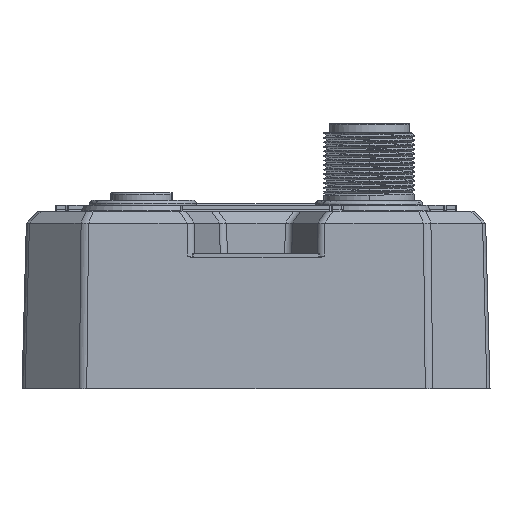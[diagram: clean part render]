
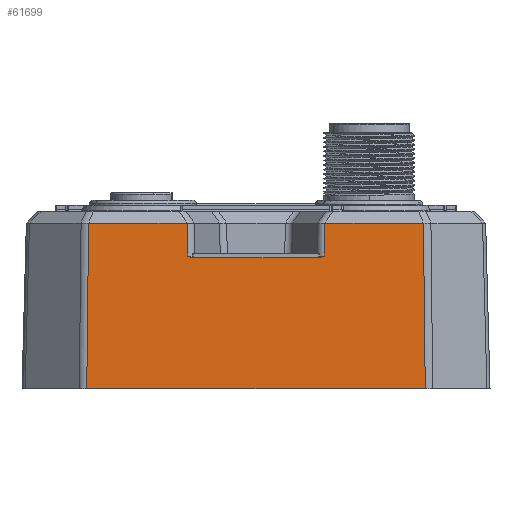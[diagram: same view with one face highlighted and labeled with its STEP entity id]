
A CAD part, front view. The second image highlights one B-rep face of the part: STEP entity #61699.
In plain terms, the highlighted planar face has unit normal (0, -1, 0.026).
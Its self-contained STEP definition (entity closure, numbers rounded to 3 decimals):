
#6977=CARTESIAN_POINT('',(22.179,-111.925,21.96));
#7010=CARTESIAN_POINT('',(-22.42,-112.5,0.));
#7016=DIRECTION('',(1.,0.,0.));
#7017=VECTOR('',#7016,44.841);
#7018=CARTESIAN_POINT('',(-22.42,-112.5,0.));
#7019=LINE('',#7018,#7017);
#7024=CARTESIAN_POINT('',(22.42,-112.5,0.));
#8016=CARTESIAN_POINT('',(-22.179,-111.925,
21.96));
#8030=DIRECTION('',(1.,0.,0.));
#8031=VECTOR('',#8030,16.53);
#8032=CARTESIAN_POINT('',(-8.27,-112.044,
17.4));
#8033=LINE('',#8032,#8031);
#8034=DIRECTION('',(-0.018,-0.026,-1.));
#8035=VECTOR('',#8034,4.367);
#8036=CARTESIAN_POINT('',(9.118,-111.925,21.96));
#8037=LINE('',#8036,#8035);
#8038=DIRECTION('',(-1.,0.,0.));
#8039=VECTOR('',#8038,13.061);
#8040=CARTESIAN_POINT('',(22.179,-111.925,21.96));
#8041=LINE('',#8040,#8039);
#8042=DIRECTION('',(-0.011,0.026,1.));
#8043=VECTOR('',#8042,21.968);
#8044=CARTESIAN_POINT('',(22.42,-112.5,0.));
#8045=LINE('',#8044,#8043);
#8046=DIRECTION('',(-0.011,-0.026,-1.));
#8047=VECTOR('',#8046,21.968);
#8048=CARTESIAN_POINT('',(-22.179,-111.925,
21.96));
#8049=LINE('',#8048,#8047);
#8050=DIRECTION('',(-1.,0.,0.));
#8051=VECTOR('',#8050,13.061);
#8052=CARTESIAN_POINT('',(-9.118,-111.925,
21.96));
#8053=LINE('',#8052,#8051);
#8054=DIRECTION('',(-0.018,0.026,1.));
#8055=VECTOR('',#8054,4.367);
#8056=CARTESIAN_POINT('',(-9.041,-112.039,
17.595));
#8057=LINE('',#8056,#8055);
#8071=CARTESIAN_POINT('',(-8.27,-112.044,
17.4));
#8072=CARTESIAN_POINT('',(-8.309,-112.044,
17.4));
#8073=CARTESIAN_POINT('',(-8.347,-112.044,
17.4));
#8074=CARTESIAN_POINT('',(-8.386,-112.044,
17.4));
#8096=CARTESIAN_POINT('',(-8.386,-112.044,
17.4));
#8097=CARTESIAN_POINT('',(-8.413,-112.044,
17.4));
#8098=CARTESIAN_POINT('',(-8.472,-112.044,
17.403));
#8099=CARTESIAN_POINT('',(-8.569,-112.044,
17.42));
#8100=CARTESIAN_POINT('',(-8.674,-112.043,
17.447));
#8101=CARTESIAN_POINT('',(-8.788,-112.042,
17.487));
#8102=CARTESIAN_POINT('',(-8.909,-112.041,
17.536));
#8103=CARTESIAN_POINT('',(-8.996,-112.04,
17.575));
#8104=CARTESIAN_POINT('',(-9.041,-112.039,
17.595));
#8287=CARTESIAN_POINT('',(9.041,-112.039,17.595));
#8288=CARTESIAN_POINT('',(8.996,-112.04,17.575));
#8289=CARTESIAN_POINT('',(8.909,-112.041,17.536));
#8290=CARTESIAN_POINT('',(8.788,-112.042,17.486));
#8291=CARTESIAN_POINT('',(8.674,-112.043,17.447));
#8292=CARTESIAN_POINT('',(8.569,-112.044,17.42));
#8293=CARTESIAN_POINT('',(8.472,-112.044,17.403));
#8294=CARTESIAN_POINT('',(8.413,-112.044,17.4));
#8295=CARTESIAN_POINT('',(8.386,-112.044,17.4));
#8308=CARTESIAN_POINT('',(8.386,-112.044,17.4));
#8309=CARTESIAN_POINT('',(8.344,-112.044,17.4));
#8310=CARTESIAN_POINT('',(8.302,-112.044,17.4));
#8311=CARTESIAN_POINT('',(8.26,-112.044,17.4));
#46996=VERTEX_POINT('',#7010);
#47000=VERTEX_POINT('',#8016);
#47026=VERTEX_POINT('',#6977);
#47030=VERTEX_POINT('',#7024);
#47067=CARTESIAN_POINT('',(-9.118,-111.925,
21.96));
#47068=VERTEX_POINT('',#47067);
#47071=CARTESIAN_POINT('',(9.118,-111.925,
21.96));
#47072=VERTEX_POINT('',#47071);
#47527=CARTESIAN_POINT('',(9.041,-112.039,
17.595));
#47528=VERTEX_POINT('',#47527);
#47529=CARTESIAN_POINT('',(-9.041,-112.039,
17.595));
#47530=VERTEX_POINT('',#47529);
#47531=VERTEX_POINT('',#8295);
#47532=VERTEX_POINT('',#8096);
#48789=CARTESIAN_POINT('',(-8.27,-112.044,
17.4));
#48790=CARTESIAN_POINT('',(8.26,-112.044,
17.4));
#48791=VERTEX_POINT('',#48789);
#48792=VERTEX_POINT('',#48790);
#61672=CARTESIAN_POINT('',(-34.815,-112.5,0.));
#61673=DIRECTION('',(0.,-1.,0.026));
#61674=DIRECTION('',(-1.,0.,0.));
#61675=AXIS2_PLACEMENT_3D('',#61672,#61673,#61674);
#61676=PLANE('',#61675);
#61678=ORIENTED_EDGE('',*,*,#61677,.T.);
#61680=ORIENTED_EDGE('',*,*,#61679,.F.);
#61682=ORIENTED_EDGE('',*,*,#61681,.F.);
#61684=ORIENTED_EDGE('',*,*,#61683,.F.);
#61685=ORIENTED_EDGE('',*,*,#60061,.F.);
#61686=ORIENTED_EDGE('',*,*,#60090,.F.);
#61687=ORIENTED_EDGE('',*,*,#60136,.F.);
#61688=ORIENTED_EDGE('',*,*,#61655,.F.);
#61690=ORIENTED_EDGE('',*,*,#61689,.F.);
#61692=ORIENTED_EDGE('',*,*,#61691,.F.);
#61694=ORIENTED_EDGE('',*,*,#61693,.F.);
#61696=ORIENTED_EDGE('',*,*,#61695,.F.);
#61697=EDGE_LOOP('',(#61678,#61680,#61682,#61684,#61685,#61686,#61687,#61688,
#61690,#61692,#61694,#61696));
#61698=FACE_OUTER_BOUND('',#61697,.F.);
#61699=ADVANCED_FACE('',(#61698),#61676,.T.);
#8075=B_SPLINE_CURVE_WITH_KNOTS('',3,(#8071,#8072,#8073,#8074),.UNSPECIFIED.,
.F.,.F.,(4,4),(0.,1.),.UNSPECIFIED.);
#8105=B_SPLINE_CURVE_WITH_KNOTS('',3,(#8096,#8097,#8098,#8099,#8100,#8101,#8102,
#8103,#8104),.UNSPECIFIED.,.F.,.F.,(4,1,1,1,1,1,4),(0.,0.167,
0.333,0.5,0.667,0.833,1.),
.UNSPECIFIED.);
#8296=B_SPLINE_CURVE_WITH_KNOTS('',3,(#8287,#8288,#8289,#8290,#8291,#8292,#8293,
#8294,#8295),.UNSPECIFIED.,.F.,.F.,(4,1,1,1,1,1,4),(0.,0.167,
0.333,0.5,0.667,0.833,1.),
.UNSPECIFIED.);
#8312=B_SPLINE_CURVE_WITH_KNOTS('',3,(#8308,#8309,#8310,#8311),.UNSPECIFIED.,
.F.,.F.,(4,4),(0.,1.),.UNSPECIFIED.);
#60061=EDGE_CURVE('',#47026,#47072,#8041,.T.);
#60090=EDGE_CURVE('',#47030,#47026,#8045,.T.);
#60136=EDGE_CURVE('',#46996,#47030,#7019,.T.);
#61655=EDGE_CURVE('',#47000,#46996,#8049,.T.);
#61677=EDGE_CURVE('',#48791,#48792,#8033,.T.);
#61679=EDGE_CURVE('',#47531,#48792,#8312,.T.);
#61681=EDGE_CURVE('',#47528,#47531,#8296,.T.);
#61683=EDGE_CURVE('',#47072,#47528,#8037,.T.);
#61689=EDGE_CURVE('',#47068,#47000,#8053,.T.);
#61691=EDGE_CURVE('',#47530,#47068,#8057,.T.);
#61693=EDGE_CURVE('',#47532,#47530,#8105,.T.);
#61695=EDGE_CURVE('',#48791,#47532,#8075,.T.);
